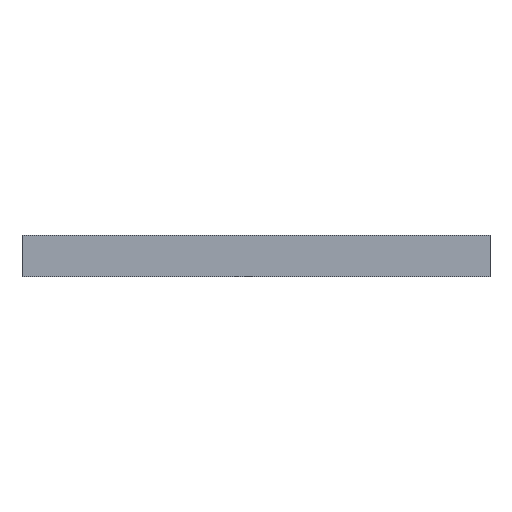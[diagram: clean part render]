
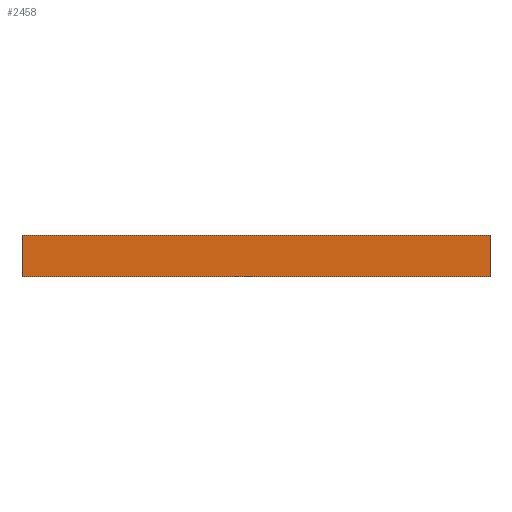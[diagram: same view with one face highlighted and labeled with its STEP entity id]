
A CAD part, front view. The second image highlights one B-rep face of the part: STEP entity #2458.
In plain terms, the highlighted planar face has unit normal (0, -1, 0).
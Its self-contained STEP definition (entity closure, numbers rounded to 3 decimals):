
#2458=ADVANCED_FACE('',(#4818),#4819,.F.);
#4818=FACE_OUTER_BOUND('',#12842,.T.);
#4819=PLANE('',#12843);
#12842=EDGE_LOOP('',(#19466,#19467,#19468,#19469));
#12843=AXIS2_PLACEMENT_3D('',#19470,#19471,#19472);
#19466=ORIENTED_EDGE('',*,*,#21038,.T.);
#19467=ORIENTED_EDGE('',*,*,#22083,.F.);
#19468=ORIENTED_EDGE('',*,*,#21964,.F.);
#19469=ORIENTED_EDGE('',*,*,#20521,.F.);
#19470=CARTESIAN_POINT('',(53.25,-66.0,9.5));
#19471=DIRECTION('',(0.0,1.0,0.0));
#19472=DIRECTION('',(0.0,0.0,1.0));
#20521=EDGE_CURVE('',#23851,#23846,#23853,.T.);
#21038=EDGE_CURVE('',#23851,#24610,#24612,.T.);
#21964=EDGE_CURVE('',#23846,#25779,#25780,.T.);
#22083=EDGE_CURVE('',#25779,#24610,#25902,.T.);
#23846=VERTEX_POINT('',#29541);
#23851=VERTEX_POINT('',#29548);
#23853=LINE('',#29551,#29552);
#24610=VERTEX_POINT('',#31247);
#24612=LINE('',#31250,#31251);
#25779=VERTEX_POINT('',#33862);
#25780=LINE('',#33863,#33864);
#25902=LINE('',#34053,#34054);
#29541=CARTESIAN_POINT('',(172.5,-66.0,20.0));
#29548=CARTESIAN_POINT('',(-66.0,-66.0,20.0));
#29551=CARTESIAN_POINT('',(53.25,-66.0,20.0));
#29552=VECTOR('',#34910,1.0);
#31247=CARTESIAN_POINT('',(-66.0,-66.0,-1.0));
#31250=CARTESIAN_POINT('',(-66.0,-66.0,9.5));
#31251=VECTOR('',#35268,1.0);
#33862=CARTESIAN_POINT('',(172.5,-66.0,-1.0));
#33863=CARTESIAN_POINT('',(172.5,-66.0,9.5));
#33864=VECTOR('',#35815,1.0);
#34053=CARTESIAN_POINT('',(53.25,-66.0,-1.0));
#34054=VECTOR('',#35860,1.0);
#34910=DIRECTION('',(1.0,0.0,0.0));
#35268=DIRECTION('',(0.0,0.0,-1.0));
#35815=DIRECTION('',(0.0,0.0,-1.0));
#35860=DIRECTION('',(-1.0,0.0,0.0));
